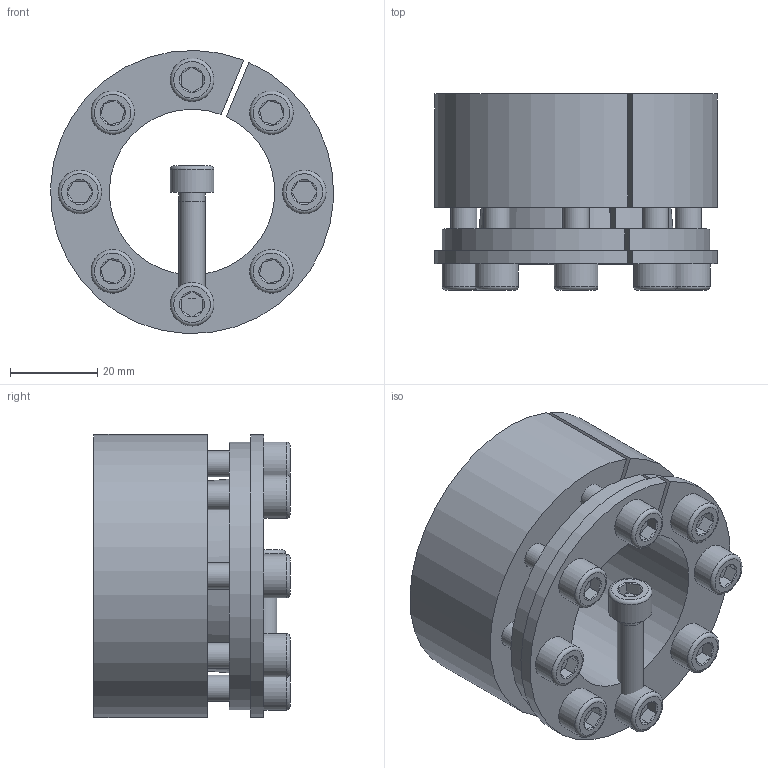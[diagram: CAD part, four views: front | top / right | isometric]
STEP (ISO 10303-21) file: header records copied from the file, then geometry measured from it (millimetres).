
FILE_DESCRIPTION( ( 'Unknown' ), '1' );
FILE_NAME( 'C:/Dokumente und Einstellungen/Sven/Desktop/homepage/cad - homepage/KBS70/KBS 70 - 38 x 65.stp', 'Unknown', ( 'Unknown' ), ( 'Unknown' ), 'XStep 1.0', 'Unknown', ' ' );
FILE_SCHEMA( ( 'automotive_design' ) );
Length unit declared in the file: millimetre
Products named in the file (3): Assem1; KBS 70 - 38 x 65; ISO EN DIN 4762 M6x25
Bounding box: 64.93 x 45 x 64.95 mm (x, y, z)
Volume: 141861.8 mm3; surface area: 58243.1 mm2
Topology: 11 solids, 11 shells, 285 faces, 583 edges, 356 vertices
Faces by surface type: plane 124, cylinder 76, cone 67, torus 18
Full cylindrical faces by diameter (mm): 5 x9, 6 x50, 10 x9
Entity records: 1882 total; most frequent: CARTESIAN_POINT 305, DIRECTION 284, ORIENTED_EDGE 206, AXIS2_PLACEMENT_3D 126, EDGE_LOOP 114, EDGE_CURVE 103, VERTEX_POINT 79, FACE_OUTER_BOUND 77
